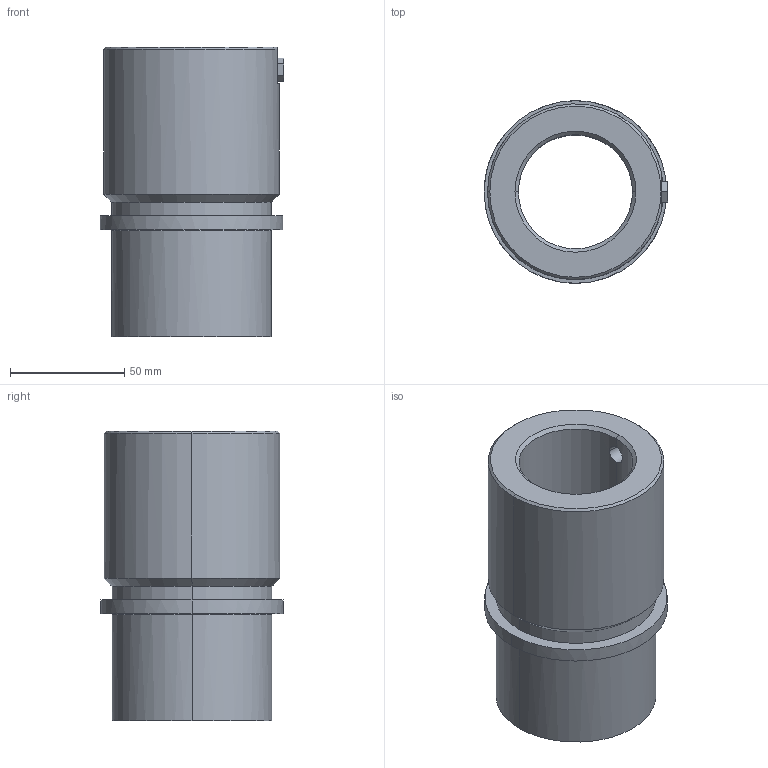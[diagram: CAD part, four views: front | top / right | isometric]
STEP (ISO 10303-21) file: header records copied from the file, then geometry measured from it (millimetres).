
FILE_DESCRIPTION(('CATIA V5 STEP Exchange'),'2;1');
FILE_NAME('C:\Users\Utente\Desktop\IO LAVORO\3D X SITO CF\X SITO\742\742-50.stp','2021-01-23T10:40:59+00:00',('none'),('none'),'CATIA Version 5 Release 20 GA (IN-10)','CATIA V5 STEP AP203','none');
FILE_SCHEMA(('CONFIG_CONTROL_DESIGN'));
Length unit declared in the file: millimetre
Products named in the file (1): 742-50
Assembly tree (1 placements, depth 2):
  742-50
    #58
Bounding box: 80.5 x 80 x 127 mm (x, y, z)
Volume: 298891.6 mm3; surface area: 57028.2 mm2
Topology: 1 solids, 1 shells, 38 faces, 89 edges, 56 vertices
Faces by surface type: plane 14, cylinder 12, cone 8, torus 4
Entity records: 1264 total; most frequent: CARTESIAN_POINT 356, ORIENTED_EDGE 178, DIRECTION 155, EDGE_CURVE 89, AXIS2_PLACEMENT_3D 74, VERTEX_POINT 56, EDGE_LOOP 43, VECTOR 41
